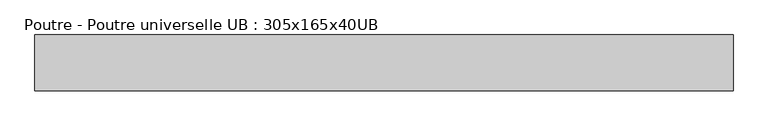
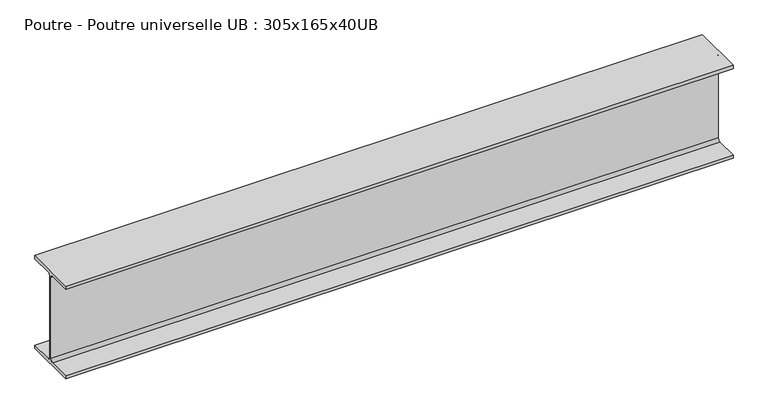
"""IFC4 building model written with IfcOpenShell, lengths in millimetres: beam geometry, Poutre - Poutre universelle UB : 305x165x40UB."""

from ifc_helpers import new_model, si_unit, point, frame, frame_2d, origin, place, context, project, spatial, polyline, circle_curve, trimmed, segment, composite_curve, outline, extrude, source, transform, mapped, element, save


def poutre_poutre_universelle_ub_305x165x40ub_04567ed0(model_context):
    return source(origin(), model_context, "Body", "SweptSolid", [
        extrude(outline(composite_curve([segment(polyline([(82.5, -141.5), (82.5, -151.7), (-82.5, -151.7), (-82.5, -141.5), (-11.9, -141.5)]), True, "CONTINUOUS"), segment(trimmed(circle_curve(frame_2d((-11.9, -132.6)), 8.9), [point((-11.9, -141.5))], [point((-3.0, -132.6))], True, "CARTESIAN"), True, "CONTINUOUS"), segment(polyline([(-3.0, -132.6), (-3.0, 132.6)]), True, "CONTINUOUS"), segment(trimmed(circle_curve(frame_2d((-11.9, 132.6)), 8.9), [point((-3.0, 132.6))], [point((-11.9, 141.5))], True, "CARTESIAN"), True, "CONTINUOUS"), segment(polyline([(-11.9, 141.5), (-82.5, 141.5), (-82.5, 151.7), (82.5, 151.7), (82.5, 141.5), (11.9, 141.5)]), True, "CONTINUOUS"), segment(trimmed(circle_curve(frame_2d((11.9, 132.6)), 8.9), [point((11.9, 141.5))], [point((3.0, 132.6))], True, "CARTESIAN"), True, "CONTINUOUS"), segment(polyline([(3.0, 132.6), (3.0, -132.6)]), True, "CONTINUOUS"), segment(trimmed(circle_curve(frame_2d((11.9, -132.6)), 8.9), [point((3.0, -132.6))], [point((11.9, -141.5))], True, "CARTESIAN"), True, "CONTINUOUS"), segment(polyline([(11.9, -141.5), (82.5, -141.5)]), True, "CONTINUOUS")], self_intersect=False)), frame((-975.5, 0.0, 0.0), z_axis=(1.0, 0.0, 0.0), x_axis=(0.0, 1.0, 0.0)), (0.0, 0.0, 1.0), 2065.0),
    ])


if __name__ == "__main__":
    model = new_model("IFC4")
    model_context = context("Model", 3, world=origin())
    ifc_project = project(units=[si_unit("LENGTHUNIT", "METRE", prefix="MILLI")], contexts=[model_context])
    site = spatial("IfcSite", under=ifc_project)
    building = spatial("IfcBuilding", under=site)
    placement = place(None, origin())
    poutre_poutre_universelle_ub_305x165x40ub_shape = poutre_poutre_universelle_ub_305x165x40ub_04567ed0(model_context)
    element("IfcBeam", 1, ObjectType="Poutre - Poutre universelle UB : 305x165x40UB", at=placement, inside=building, context=model_context, shape_type="MappedRepresentation", body=[
        mapped(poutre_poutre_universelle_ub_305x165x40ub_shape, transform((0.0, 0.0, 0.0), x_axis=(1.0, 0.0, 0.0), y_axis=(0.0, 1.0, 0.0), z_axis=(0.0, 0.0, 1.0))),
    ])
    save(model, "model.ifc")
